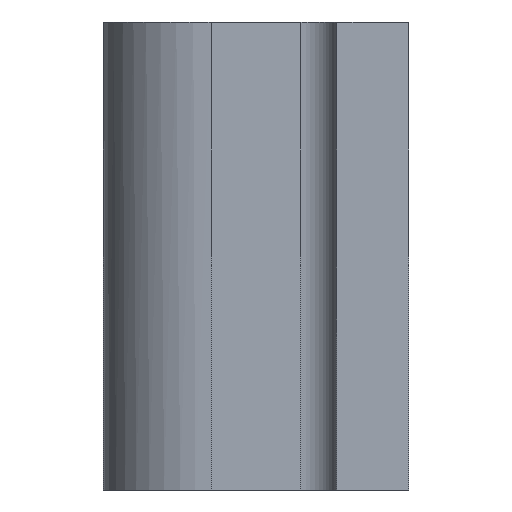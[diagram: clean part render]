
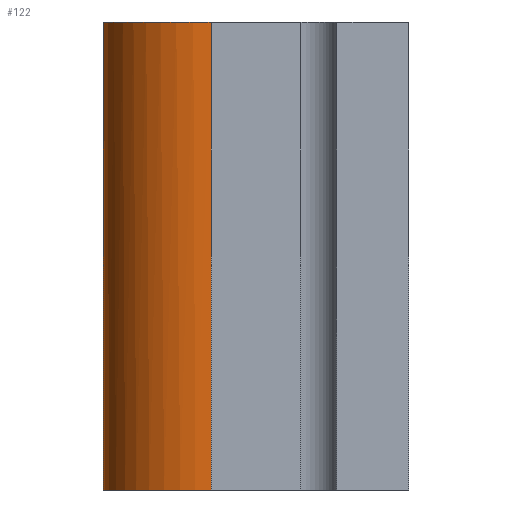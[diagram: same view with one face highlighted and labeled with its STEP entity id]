
A CAD part, left-side view. The second image highlights one B-rep face of the part: STEP entity #122.
In plain terms, the highlighted free-form (B-spline) face has degree [3, 1] with [4, 2] control points.
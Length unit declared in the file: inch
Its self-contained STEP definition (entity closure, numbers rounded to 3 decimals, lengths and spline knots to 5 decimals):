
#122=ADVANCED_FACE('',(#269),#270,.T.);
#269=FACE_OUTER_BOUND('',#500,.T.);
#270=B_SPLINE_SURFACE_WITH_KNOTS('',3,1,((#501,#502),(#503,#504),(#505,#506),(#507,#508)),.UNSPECIFIED.,.F.,.F.,.F.,(4,4),(2,2),(0.0,1.0),(0.0,0.8125),.UNSPECIFIED.);
#500=EDGE_LOOP('',(#871,#872,#873,#874));
#501=CARTESIAN_POINT('',(0.99902,0.53033,0.0));
#502=CARTESIAN_POINT('',(0.99902,0.53033,0.8125));
#503=CARTESIAN_POINT('',(0.89557,0.53033,0.0));
#504=CARTESIAN_POINT('',(0.89557,0.53033,0.8125));
#505=CARTESIAN_POINT('',(0.8117,0.44647,0.0));
#506=CARTESIAN_POINT('',(0.8117,0.44647,0.8125));
#507=CARTESIAN_POINT('',(0.8117,0.34302,0.0));
#508=CARTESIAN_POINT('',(0.8117,0.34302,0.8125));
#871=ORIENTED_EDGE('',*,*,#1116,.T.);
#872=ORIENTED_EDGE('',*,*,#1074,.F.);
#873=ORIENTED_EDGE('',*,*,#1117,.T.);
#874=ORIENTED_EDGE('',*,*,#1061,.T.);
#1061=EDGE_CURVE('',#1204,#1202,#1205,.T.);
#1074=EDGE_CURVE('',#1224,#1222,#1226,.T.);
#1116=EDGE_CURVE('',#1202,#1222,#1295,.T.);
#1117=EDGE_CURVE('',#1224,#1204,#1296,.T.);
#1202=VERTEX_POINT('',#1420);
#1204=VERTEX_POINT('',#1423);
#1205=LINE('',#1424,#1425);
#1222=VERTEX_POINT('',#1458);
#1224=VERTEX_POINT('',#1461);
#1226=LINE('',#1464,#1465);
#1295=B_SPLINE_CURVE_WITH_KNOTS('',3,(#1593,#1594,#1595,#1596),.UNSPECIFIED.,.F.,.F.,(4,4),(-1.0,-0.0),.UNSPECIFIED.);
#1296=B_SPLINE_CURVE_WITH_KNOTS('',3,(#1597,#1598,#1599,#1600),.UNSPECIFIED.,.F.,.F.,(4,4),(0.0,1.0),.UNSPECIFIED.);
#1420=CARTESIAN_POINT('',(0.8117,0.34302,0.8125));
#1423=CARTESIAN_POINT('',(0.8117,0.34302,0.0));
#1424=CARTESIAN_POINT('',(0.8117,0.34302,0.0));
#1425=VECTOR('',#1748,1.0);
#1458=CARTESIAN_POINT('',(0.99902,0.53033,0.8125));
#1461=CARTESIAN_POINT('',(0.99902,0.53033,0.0));
#1464=CARTESIAN_POINT('',(0.99902,0.53033,0.0));
#1465=VECTOR('',#1755,1.0);
#1593=CARTESIAN_POINT('',(0.8117,0.34302,0.8125));
#1594=CARTESIAN_POINT('',(0.8117,0.44647,0.8125));
#1595=CARTESIAN_POINT('',(0.89557,0.53033,0.8125));
#1596=CARTESIAN_POINT('',(0.99902,0.53033,0.8125));
#1597=CARTESIAN_POINT('',(0.99902,0.53033,0.0));
#1598=CARTESIAN_POINT('',(0.89557,0.53033,0.0));
#1599=CARTESIAN_POINT('',(0.8117,0.44647,0.0));
#1600=CARTESIAN_POINT('',(0.8117,0.34302,0.0));
#1748=DIRECTION('',(0.0,0.0,1.0));
#1755=DIRECTION('',(0.0,0.0,1.0));
